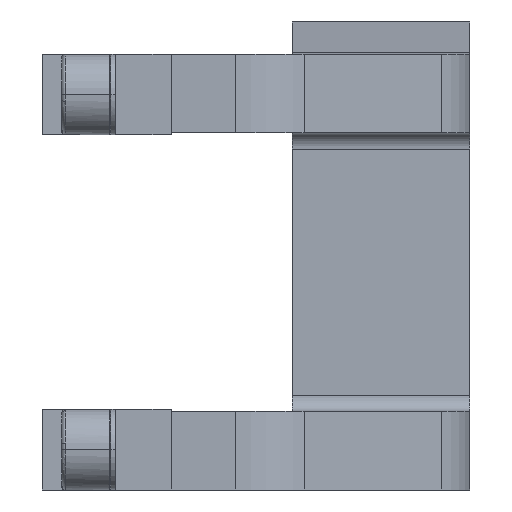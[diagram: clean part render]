
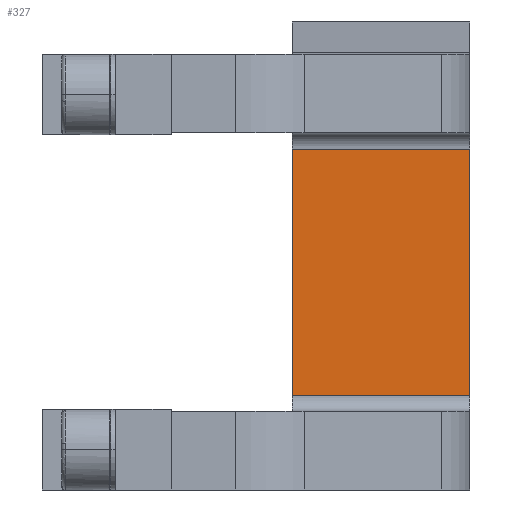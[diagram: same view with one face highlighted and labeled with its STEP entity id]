
A CAD part, front view. The second image highlights one B-rep face of the part: STEP entity #327.
In plain terms, the highlighted planar face has unit normal (0, -1, 0).
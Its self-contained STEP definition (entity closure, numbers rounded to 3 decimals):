
#275=CARTESIAN_POINT('Vertex',(15.,70.,-15.25)) ;
#282=CARTESIAN_POINT('Vertex',(37.,70.,-15.25)) ;
#285=CARTESIAN_POINT('Line Origine',(18.5,70.,-15.25)) ;
#297=CARTESIAN_POINT('Axis2P3D Location',(0.,70.,15.25)) ;
#302=CARTESIAN_POINT('Line Origine',(37.,70.,0.)) ;
#306=CARTESIAN_POINT('Vertex',(37.,70.,15.25)) ;
#309=CARTESIAN_POINT('Line Origine',(26.,70.,15.25)) ;
#313=CARTESIAN_POINT('Vertex',(15.,70.,15.25)) ;
#316=CARTESIAN_POINT('Line Origine',(15.,70.,0.)) ;
#286=DIRECTION('Vector Direction',(-1.,0.,0.)) ;
#298=DIRECTION('Axis2P3D Direction',(0.,-1.,0.)) ;
#299=DIRECTION('Axis2P3D XDirection',(0.,-0.,-1.)) ;
#303=DIRECTION('Vector Direction',(0.,0.,-1.)) ;
#310=DIRECTION('Vector Direction',(1.,0.,0.)) ;
#317=DIRECTION('Vector Direction',(0.,0.,-1.)) ;
#300=AXIS2_PLACEMENT_3D('Plane Axis2P3D',#297,#298,#299) ;
#322=ORIENTED_EDGE('',*,*,#289,.T.) ;
#323=ORIENTED_EDGE('',*,*,#308,.F.) ;
#324=ORIENTED_EDGE('',*,*,#315,.F.) ;
#325=ORIENTED_EDGE('',*,*,#320,.T.) ;
#287=VECTOR('Line Direction',#286,1.) ;
#304=VECTOR('Line Direction',#303,1.) ;
#311=VECTOR('Line Direction',#310,1.) ;
#318=VECTOR('Line Direction',#317,1.) ;
#327=ADVANCED_FACE('Brep With Voids',(#326),#301,.T.) ;
#289=EDGE_CURVE('',#276,#283,#288,.F.) ;
#308=EDGE_CURVE('',#307,#283,#305,.T.) ;
#315=EDGE_CURVE('',#314,#307,#312,.T.) ;
#320=EDGE_CURVE('',#314,#276,#319,.T.) ;
#321=EDGE_LOOP('',(#322,#323,#324,#325)) ;
#326=FACE_OUTER_BOUND('',#321,.T.) ;
#288=LINE('Line',#285,#287) ;
#305=LINE('Line',#302,#304) ;
#312=LINE('Line',#309,#311) ;
#319=LINE('Line',#316,#318) ;
#301=PLANE('Plane',#300) ;
#276=VERTEX_POINT('',#275) ;
#283=VERTEX_POINT('',#282) ;
#307=VERTEX_POINT('',#306) ;
#314=VERTEX_POINT('',#313) ;
